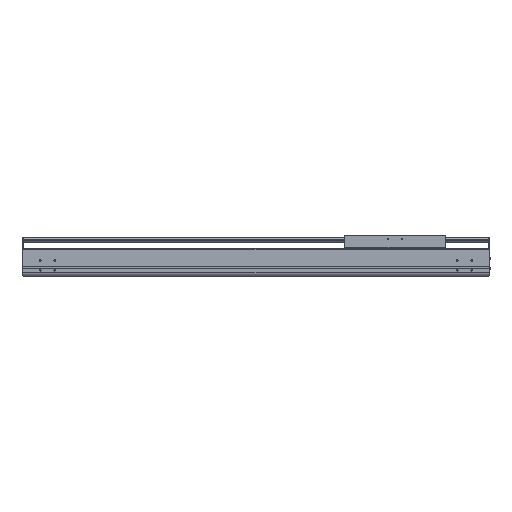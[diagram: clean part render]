
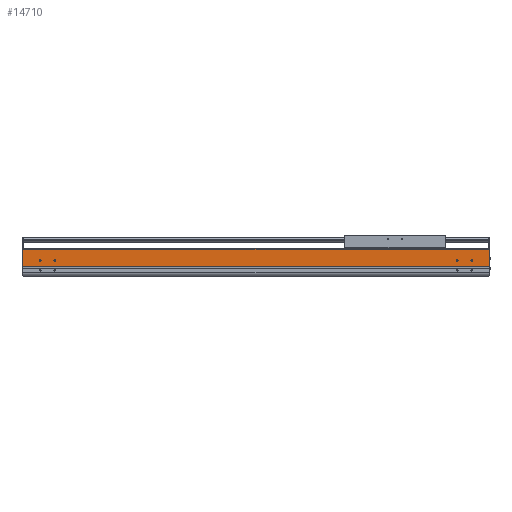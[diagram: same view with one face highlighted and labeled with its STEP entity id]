
A CAD part, top view. The second image highlights one B-rep face of the part: STEP entity #14710.
In plain terms, the highlighted planar face has unit normal (0, 0, 1).
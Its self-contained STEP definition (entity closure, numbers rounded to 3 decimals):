
#1768=DIRECTION('',(0.,-1.,0.));
#1769=VECTOR('',#1768,2.55);
#1770=CARTESIAN_POINT('',(0.,34.65,107.));
#1771=LINE('',#1770,#1769);
#2251=DIRECTION('',(1.,0.,0.));
#2252=VECTOR('',#2251,2.);
#2253=CARTESIAN_POINT('',(-1621.,34.65,107.));
#2254=LINE('',#2253,#2252);
#2255=CARTESIAN_POINT('',(-59.5,54.,107.));
#2256=DIRECTION('',(0.,0.,-1.));
#2257=DIRECTION('',(1.,0.,0.));
#2258=AXIS2_PLACEMENT_3D('',#2255,#2256,#2257);
#2260=CARTESIAN_POINT('',(-59.5,54.,107.));
#2261=DIRECTION('',(0.,0.,-1.));
#2262=DIRECTION('',(-1.,0.,0.));
#2263=AXIS2_PLACEMENT_3D('',#2260,#2261,#2262);
#2265=CARTESIAN_POINT('',(-109.5,54.,107.));
#2266=DIRECTION('',(0.,0.,-1.));
#2267=DIRECTION('',(1.,0.,0.));
#2268=AXIS2_PLACEMENT_3D('',#2265,#2266,#2267);
#2270=CARTESIAN_POINT('',(-109.5,54.,107.));
#2271=DIRECTION('',(0.,0.,-1.));
#2272=DIRECTION('',(-1.,0.,0.));
#2273=AXIS2_PLACEMENT_3D('',#2270,#2271,#2272);
#2275=CARTESIAN_POINT('',(-1559.5,54.,107.));
#2276=DIRECTION('',(0.,0.,-1.));
#2277=DIRECTION('',(1.,0.,0.));
#2278=AXIS2_PLACEMENT_3D('',#2275,#2276,#2277);
#2280=CARTESIAN_POINT('',(-1559.5,54.,107.));
#2281=DIRECTION('',(0.,0.,-1.));
#2282=DIRECTION('',(-1.,0.,0.));
#2283=AXIS2_PLACEMENT_3D('',#2280,#2281,#2282);
#2285=CARTESIAN_POINT('',(-1509.5,54.,107.));
#2286=DIRECTION('',(0.,0.,-1.));
#2287=DIRECTION('',(1.,0.,0.));
#2288=AXIS2_PLACEMENT_3D('',#2285,#2286,#2287);
#2290=CARTESIAN_POINT('',(-1509.5,54.,107.));
#2291=DIRECTION('',(0.,0.,-1.));
#2292=DIRECTION('',(-1.,0.,0.));
#2293=AXIS2_PLACEMENT_3D('',#2290,#2291,#2292);
#2295=DIRECTION('',(0.,-1.,0.));
#2296=VECTOR('',#2295,2.55);
#2297=CARTESIAN_POINT('',(-1619.,34.65,107.));
#2298=LINE('',#2297,#2296);
#2299=DIRECTION('',(0.,-1.,0.));
#2300=VECTOR('',#2299,58.85);
#2301=CARTESIAN_POINT('',(-1621.,93.5,107.));
#2302=LINE('',#2301,#2300);
#2303=DIRECTION('',(0.,1.,0.));
#2304=VECTOR('',#2303,58.85);
#2305=CARTESIAN_POINT('',(2.,34.65,107.));
#2306=LINE('',#2305,#2304);
#2307=DIRECTION('',(1.,0.,0.));
#2308=VECTOR('',#2307,1619.);
#2309=CARTESIAN_POINT('',(-1619.,32.1,107.));
#2310=LINE('',#2309,#2308);
#2415=DIRECTION('',(-1.,0.,0.));
#2416=VECTOR('',#2415,1623.);
#2417=CARTESIAN_POINT('',(2.,93.5,107.));
#2418=LINE('',#2417,#2416);
#7961=DIRECTION('',(1.,0.,0.));
#7962=VECTOR('',#7961,2.);
#7963=CARTESIAN_POINT('',(0.,34.65,107.));
#7964=LINE('',#7963,#7962);
#9185=CARTESIAN_POINT('',(-1621.,34.65,107.));
#9186=VERTEX_POINT('',#9185);
#9187=CARTESIAN_POINT('',(-1621.,93.5,107.));
#9188=VERTEX_POINT('',#9187);
#9417=CARTESIAN_POINT('',(-1619.,32.1,107.));
#9418=VERTEX_POINT('',#9417);
#9733=CARTESIAN_POINT('',(0.,32.1,107.));
#9734=VERTEX_POINT('',#9733);
#9735=CARTESIAN_POINT('',(-57.,54.,107.));
#9736=CARTESIAN_POINT('',(-62.,54.,107.));
#9737=VERTEX_POINT('',#9735);
#9738=VERTEX_POINT('',#9736);
#9739=CARTESIAN_POINT('',(-107.,54.,107.));
#9740=CARTESIAN_POINT('',(-112.,54.,107.));
#9741=VERTEX_POINT('',#9739);
#9742=VERTEX_POINT('',#9740);
#9743=CARTESIAN_POINT('',(-1557.,54.,107.));
#9744=CARTESIAN_POINT('',(-1562.,54.,107.));
#9745=VERTEX_POINT('',#9743);
#9746=VERTEX_POINT('',#9744);
#9747=CARTESIAN_POINT('',(-1507.,54.,107.));
#9748=CARTESIAN_POINT('',(-1512.,54.,107.));
#9749=VERTEX_POINT('',#9747);
#9750=VERTEX_POINT('',#9748);
#10602=CARTESIAN_POINT('',(2.,34.65,107.));
#10603=VERTEX_POINT('',#10602);
#10604=CARTESIAN_POINT('',(2.,93.5,107.));
#10605=VERTEX_POINT('',#10604);
#11056=CARTESIAN_POINT('',(0.,34.65,107.));
#11057=VERTEX_POINT('',#11056);
#11136=CARTESIAN_POINT('',(-1619.,34.65,107.));
#11137=VERTEX_POINT('',#11136);
#14668=CARTESIAN_POINT('',(-809.5,62.8,107.));
#14669=DIRECTION('',(0.,0.,1.));
#14670=DIRECTION('',(0.,-1.,0.));
#14671=AXIS2_PLACEMENT_3D('',#14668,#14669,#14670);
#14672=PLANE('',#14671);
#14673=ORIENTED_EDGE('',*,*,#12154,.F.);
#14674=ORIENTED_EDGE('',*,*,#14663,.F.);
#14675=ORIENTED_EDGE('',*,*,#12783,.F.);
#14677=ORIENTED_EDGE('',*,*,#14676,.F.);
#14678=ORIENTED_EDGE('',*,*,#11891,.F.);
#14680=ORIENTED_EDGE('',*,*,#14679,.F.);
#14681=ORIENTED_EDGE('',*,*,#14271,.T.);
#14683=ORIENTED_EDGE('',*,*,#14682,.F.);
#14684=EDGE_LOOP('',(#14673,#14674,#14675,#14677,#14678,#14680,#14681,#14683));
#14685=FACE_OUTER_BOUND('',#14684,.F.);
#14687=ORIENTED_EDGE('',*,*,#14686,.F.);
#14689=ORIENTED_EDGE('',*,*,#14688,.F.);
#14690=EDGE_LOOP('',(#14687,#14689));
#14691=FACE_BOUND('',#14690,.F.);
#14693=ORIENTED_EDGE('',*,*,#14692,.F.);
#14695=ORIENTED_EDGE('',*,*,#14694,.F.);
#14696=EDGE_LOOP('',(#14693,#14695));
#14697=FACE_BOUND('',#14696,.F.);
#14699=ORIENTED_EDGE('',*,*,#14698,.F.);
#14701=ORIENTED_EDGE('',*,*,#14700,.F.);
#14702=EDGE_LOOP('',(#14699,#14701));
#14703=FACE_BOUND('',#14702,.F.);
#14705=ORIENTED_EDGE('',*,*,#14704,.F.);
#14707=ORIENTED_EDGE('',*,*,#14706,.F.);
#14708=EDGE_LOOP('',(#14705,#14707));
#14709=FACE_BOUND('',#14708,.F.);
#14710=ADVANCED_FACE('',(#14685,#14691,#14697,#14703,#14709),#14672,.T.);
#2259=CIRCLE('',#2258,2.5);
#2264=CIRCLE('',#2263,2.5);
#2269=CIRCLE('',#2268,2.5);
#2274=CIRCLE('',#2273,2.5);
#2279=CIRCLE('',#2278,2.5);
#2284=CIRCLE('',#2283,2.5);
#2289=CIRCLE('',#2288,2.5);
#2294=CIRCLE('',#2293,2.5);
#11891=EDGE_CURVE('',#10603,#10605,#2306,.T.);
#12154=EDGE_CURVE('',#11137,#9418,#2298,.T.);
#12783=EDGE_CURVE('',#9188,#9186,#2302,.T.);
#14271=EDGE_CURVE('',#11057,#9734,#1771,.T.);
#14663=EDGE_CURVE('',#9186,#11137,#2254,.T.);
#14676=EDGE_CURVE('',#10605,#9188,#2418,.T.);
#14679=EDGE_CURVE('',#11057,#10603,#7964,.T.);
#14682=EDGE_CURVE('',#9418,#9734,#2310,.T.);
#14686=EDGE_CURVE('',#9741,#9742,#2269,.T.);
#14688=EDGE_CURVE('',#9742,#9741,#2274,.T.);
#14692=EDGE_CURVE('',#9745,#9746,#2279,.T.);
#14694=EDGE_CURVE('',#9746,#9745,#2284,.T.);
#14698=EDGE_CURVE('',#9749,#9750,#2289,.T.);
#14700=EDGE_CURVE('',#9750,#9749,#2294,.T.);
#14704=EDGE_CURVE('',#9737,#9738,#2259,.T.);
#14706=EDGE_CURVE('',#9738,#9737,#2264,.T.);
